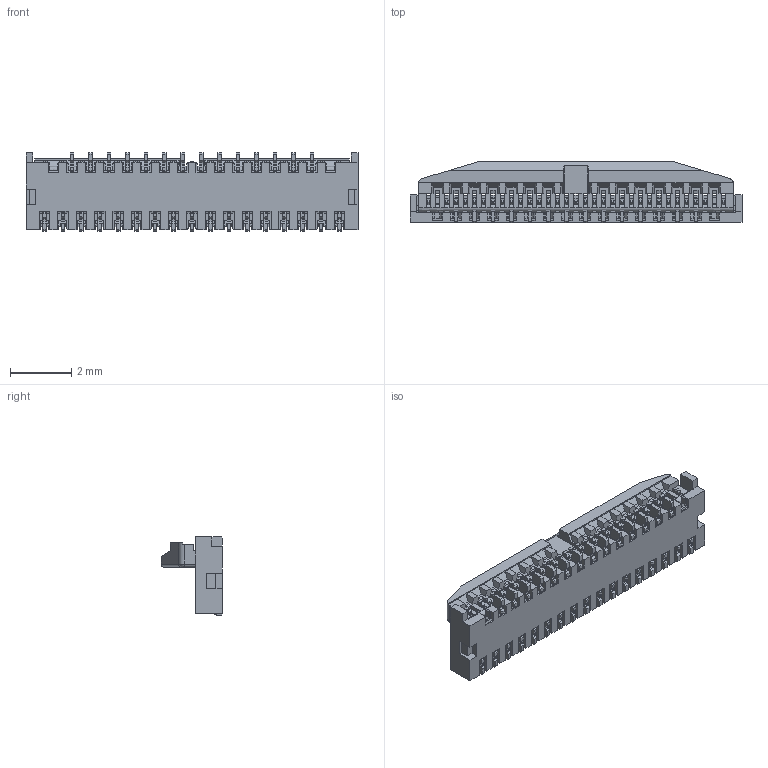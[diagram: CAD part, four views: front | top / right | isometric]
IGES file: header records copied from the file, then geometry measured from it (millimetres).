
Start section: SolidWorks IGES file using analytic representation for surfaces
Global section: file name: C:\3dworks\takei\MINIFLEX3-BFN 3Dƒ‚ƒfƒ‹_150220\20584-029ExC ASS'Y ACT OPEN IGES R3 ALL.IGS; native system: SolidWorks 2012; preprocessor: SolidWorks 2012; author: ieng2-004; date: 150220.165901; units: millimetre
Bounding box: 10.8 x 2 x 2.55 mm (x, y, z)
Surface area: 164.8 mm2 (no closed solid volume)
Topology: 0 solids, 0 shells, 3414 faces, 22344 edges, 22342 vertices
Faces by surface type: bspline 2764, revolution 650
